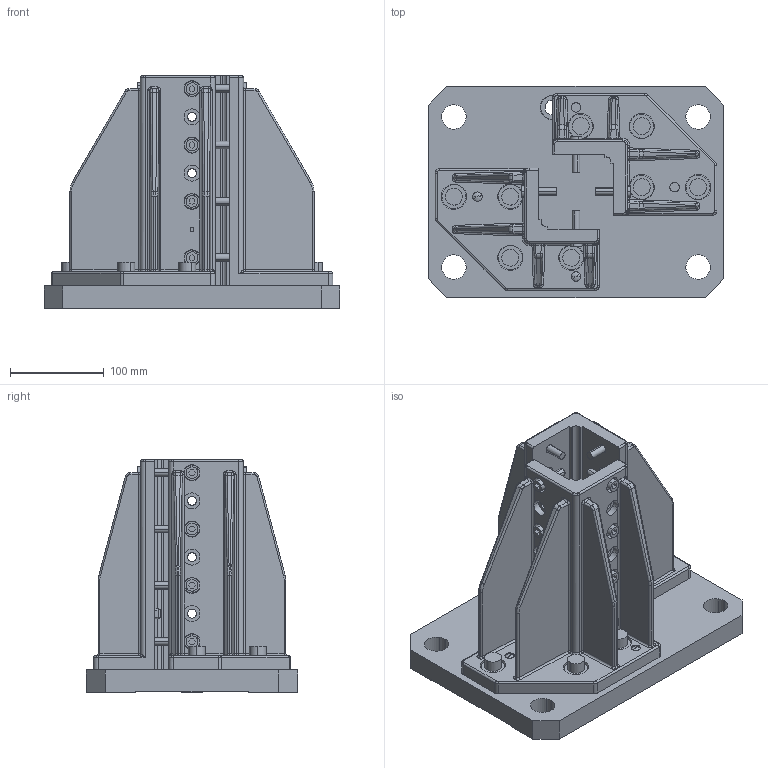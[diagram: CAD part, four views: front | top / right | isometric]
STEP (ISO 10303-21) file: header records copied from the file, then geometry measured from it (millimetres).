
FILE_DESCRIPTION(('STEP AP214'),'1');
FILE_NAME('EGT042_1698039_FLANSCHPLATTE_SW80_SENKRECHT.CATPart.stp','2015-09-14T13:05:09',('3D-Tool'),(' '),'Spatial InterOp 3D',' ',' ');
FILE_SCHEMA(('automotive_design'));
Length unit declared in the file: millimetre
Products named in the file (1): EGT042_1698039_FLANSCHPLATTE_SW80_SENKRECHT|PartBody|Assemble.78
Bounding box: 315 x 225 x 248 mm (x, y, z)
Volume: 3551477.6 mm3; surface area: 518908.1 mm2
Topology: 1 solids, 9 shells, 1580 faces, 3980 edges, 2530 vertices
Faces by surface type: cylinder 938, plane 398, cone 98, torus 58, bspline 56, sphere 32
Entity records: 65288 total; most frequent: CARTESIAN_POINT 13623, DIRECTION 8763, ORIENTED_EDGE 7888, EDGE_CURVE 3944, AXIS2_PLACEMENT_3D 3560, VERTEX_POINT 2530, CIRCLE 2035, EDGE_LOOP 1774
